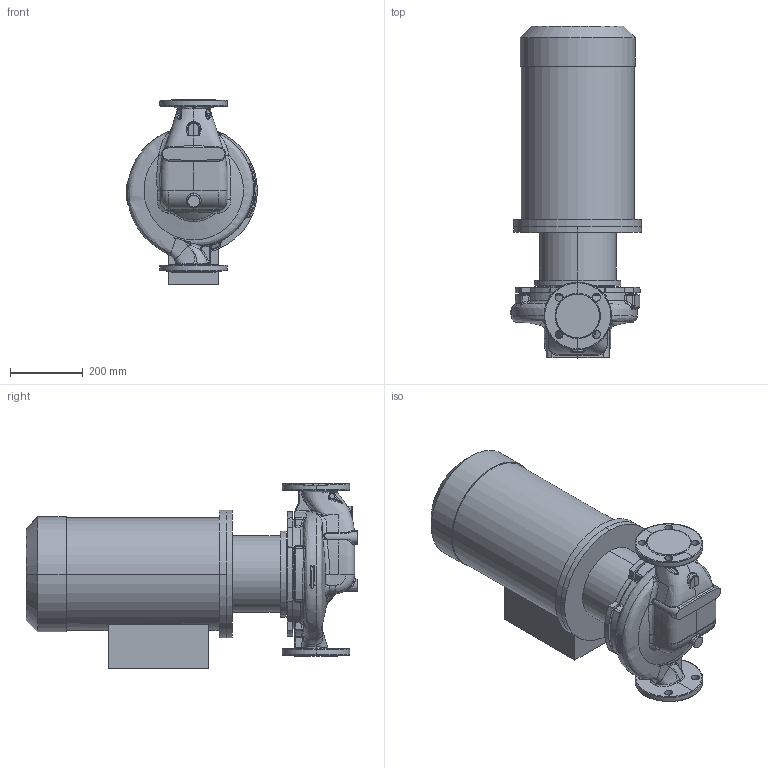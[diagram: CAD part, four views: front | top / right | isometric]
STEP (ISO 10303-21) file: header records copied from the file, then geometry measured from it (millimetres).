
FILE_DESCRIPTION (( 'STEP AP214' ), '1' );
FILE_NAME ('KRL 65-250-2-18,5.STEP', '2026-03-23T09:44:11', ( '' ), ( '' ), 'SwSTEP 2.0', 'SolidWorks 2016', '' );
FILE_SCHEMA (( 'AUTOMOTIVE_DESIGN' ));
Length unit declared in the file: millimetre
Products named in the file (1): KRL 65-250-2-18,5
Bounding box: 359.42 x 910.3 x 510 mm (x, y, z)
Volume: 67168283.1 mm3; surface area: 1853369.8 mm2
Topology: 4 solids, 4 shells, 621 faces, 1547 edges, 931 vertices
Faces by surface type: bspline 283, cylinder 133, plane 103, cone 43, torus 31, sphere 28
Entity records: 64465 total; most frequent: CARTESIAN_POINT 45456, ORIENTED_EDGE 3058, DIRECTION 1859, EDGE_CURVE 1529, VERTEX_POINT 931, AXIS2_PLACEMENT_3D 797, EDGE_LOOP 652, B_SPLINE_CURVE_WITH_KNOTS 650
